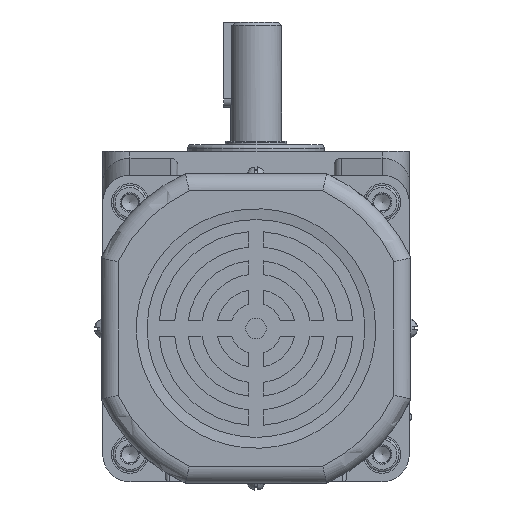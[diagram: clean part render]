
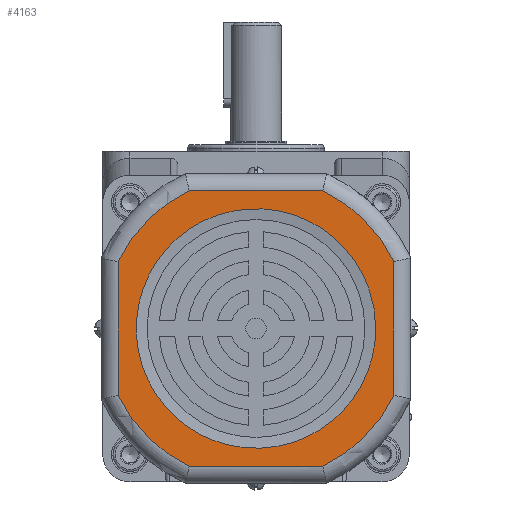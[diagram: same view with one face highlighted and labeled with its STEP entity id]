
A CAD part, front view. The second image highlights one B-rep face of the part: STEP entity #4163.
In plain terms, the highlighted planar face has unit normal (0, -1, 0).
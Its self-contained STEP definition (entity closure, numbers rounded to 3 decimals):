
#1122=LINE('',#19176,#1868);
#1124=LINE('',#19179,#1870);
#1126=LINE('',#19182,#1872);
#1129=LINE('',#19186,#1875);
#1868=VECTOR('',#15299,1.);
#1870=VECTOR('',#15303,1.);
#1872=VECTOR('',#15307,1.);
#1875=VECTOR('',#15312,1.);
#2279=B_SPLINE_CURVE_WITH_KNOTS('',3,(#19188,#19189,#19190,#19191,#19192,
#19193,#19194,#19195,#19196,#19197,#19198,#19199,#19200,#19201,#19202,#19203,
#19204,#19205,#19206,#19207,#19208,#19209,#19210,#19211,#19212,#19213,#19214,
#19215,#19216,#19217,#19218,#19219,#19220,#19221),.UNSPECIFIED.,.T.,.F.,
(2,2,2,2,2,2,2,2,2,2,2,2,2,2,2,2,2,2,2),(-0.062,0.,0.063,
0.125,0.188,0.25,0.313,0.375,0.438,0.5,0.563,0.625,0.688,0.75,0.813,
0.875,0.938,1.,1.063),.UNSPECIFIED.);
#4163=ADVANCED_FACE('',(#4945,#4946),#4610,.T.);
#4610=PLANE('',#12834);
#4945=FACE_BOUND('',#5578,.T.);
#4946=FACE_BOUND('',#5579,.T.);
#5578=EDGE_LOOP('',(#7735,#7736,#7737,#7738,#7739,#7740,#7741,#7742));
#5579=EDGE_LOOP('',(#7743));
#7735=ORIENTED_EDGE('',*,*,#10726,.T.);
#7736=ORIENTED_EDGE('',*,*,#10718,.T.);
#7737=ORIENTED_EDGE('',*,*,#10723,.T.);
#7738=ORIENTED_EDGE('',*,*,#10714,.T.);
#7739=ORIENTED_EDGE('',*,*,#10721,.T.);
#7740=ORIENTED_EDGE('',*,*,#10710,.T.);
#7741=ORIENTED_EDGE('',*,*,#10719,.T.);
#7742=ORIENTED_EDGE('',*,*,#10706,.T.);
#7743=ORIENTED_EDGE('',*,*,#10727,.F.);
#9428=VERTEX_POINT('',#19065);
#9430=VERTEX_POINT('',#19080);
#9432=VERTEX_POINT('',#19096);
#9434=VERTEX_POINT('',#19111);
#9436=VERTEX_POINT('',#19127);
#9438=VERTEX_POINT('',#19142);
#9440=VERTEX_POINT('',#19158);
#9442=VERTEX_POINT('',#19173);
#9443=VERTEX_POINT('',#19222);
#10706=EDGE_CURVE('',#9428,#9430,#11666,.T.);
#10710=EDGE_CURVE('',#9432,#9434,#11668,.T.);
#10714=EDGE_CURVE('',#9436,#9438,#11670,.T.);
#10718=EDGE_CURVE('',#9440,#9442,#11672,.T.);
#10719=EDGE_CURVE('',#9434,#9428,#1122,.T.);
#10721=EDGE_CURVE('',#9438,#9432,#1124,.T.);
#10723=EDGE_CURVE('',#9442,#9436,#1126,.T.);
#10726=EDGE_CURVE('',#9430,#9440,#1129,.T.);
#10727=EDGE_CURVE('',#9443,#9443,#2279,.T.);
#11666=CIRCLE('',#12819,45.);
#11668=CIRCLE('',#12822,45.);
#11670=CIRCLE('',#12825,45.);
#11672=CIRCLE('',#12828,45.);
#12819=AXIS2_PLACEMENT_3D('',#19081,#15277,#15278);
#12822=AXIS2_PLACEMENT_3D('',#19112,#15283,#15284);
#12825=AXIS2_PLACEMENT_3D('',#19143,#15289,#15290);
#12828=AXIS2_PLACEMENT_3D('',#19174,#15295,#15296);
#12834=AXIS2_PLACEMENT_3D('',#19223,#15315,#15316);
#15277=DIRECTION('',(0.,-1.,0.));
#15278=DIRECTION('',(1.,0.,0.));
#15283=DIRECTION('',(0.,-1.,0.));
#15284=DIRECTION('',(1.,0.,0.));
#15289=DIRECTION('',(0.,-1.,0.));
#15290=DIRECTION('',(1.,0.,0.));
#15295=DIRECTION('',(0.,-1.,0.));
#15296=DIRECTION('',(1.,0.,0.));
#15299=DIRECTION('',(-1.,0.,0.));
#15303=DIRECTION('',(0.,0.,1.));
#15307=DIRECTION('',(1.,0.,0.));
#15312=DIRECTION('',(0.,0.,-1.));
#15315=DIRECTION('',(0.,-1.,0.));
#15316=DIRECTION('',(1.,0.,0.));
#19065=CARTESIAN_POINT('',(-19.615,-234.,-11.5));
#19080=CARTESIAN_POINT('',(-40.5,-234.,-32.385));
#19081=CARTESIAN_POINT('',(0.,-234.,-52.));
#19096=CARTESIAN_POINT('',(40.5,-234.,-32.385));
#19111=CARTESIAN_POINT('',(19.615,-234.,-11.5));
#19112=CARTESIAN_POINT('',(0.,-234.,-52.));
#19127=CARTESIAN_POINT('',(19.615,-234.,-92.5));
#19142=CARTESIAN_POINT('',(40.5,-234.,-71.615));
#19143=CARTESIAN_POINT('',(0.,-234.,-52.));
#19158=CARTESIAN_POINT('',(-40.5,-234.,-71.615));
#19173=CARTESIAN_POINT('',(-19.615,-234.,-92.5));
#19174=CARTESIAN_POINT('',(0.,-234.,-52.));
#19176=CARTESIAN_POINT('',(0.,-234.,-11.5));
#19179=CARTESIAN_POINT('',(40.5,-234.,-16.843));
#19182=CARTESIAN_POINT('',(0.,-234.,-92.5));
#19186=CARTESIAN_POINT('',(-40.5,-234.,-16.843));
#19188=CARTESIAN_POINT('',(35.157,-234.,-56.602));
#19189=CARTESIAN_POINT('',(35.157,-234.,-47.398));
#19190=CARTESIAN_POINT('',(34.242,-234.,-42.798));
#19191=CARTESIAN_POINT('',(30.72,-234.,-34.294));
#19192=CARTESIAN_POINT('',(28.114,-234.,-30.394));
#19193=CARTESIAN_POINT('',(21.606,-234.,-23.886));
#19194=CARTESIAN_POINT('',(17.706,-234.,-21.28));
#19195=CARTESIAN_POINT('',(9.202,-234.,-17.758));
#19196=CARTESIAN_POINT('',(4.602,-234.,-16.843));
#19197=CARTESIAN_POINT('',(-4.602,-234.,-16.843));
#19198=CARTESIAN_POINT('',(-9.202,-234.,-17.758));
#19199=CARTESIAN_POINT('',(-17.706,-234.,-21.28));
#19200=CARTESIAN_POINT('',(-21.606,-234.,-23.886));
#19201=CARTESIAN_POINT('',(-28.114,-234.,-30.394));
#19202=CARTESIAN_POINT('',(-30.72,-234.,-34.294));
#19203=CARTESIAN_POINT('',(-34.242,-234.,-42.798));
#19204=CARTESIAN_POINT('',(-35.157,-234.,-47.398));
#19205=CARTESIAN_POINT('',(-35.157,-234.,-56.602));
#19206=CARTESIAN_POINT('',(-34.242,-234.,-61.202));
#19207=CARTESIAN_POINT('',(-30.72,-234.,-69.706));
#19208=CARTESIAN_POINT('',(-28.114,-234.,-73.606));
#19209=CARTESIAN_POINT('',(-21.606,-234.,-80.114));
#19210=CARTESIAN_POINT('',(-17.706,-234.,-82.72));
#19211=CARTESIAN_POINT('',(-9.202,-234.,-86.242));
#19212=CARTESIAN_POINT('',(-4.602,-234.,-87.157));
#19213=CARTESIAN_POINT('',(4.602,-234.,-87.157));
#19214=CARTESIAN_POINT('',(9.202,-234.,-86.242));
#19215=CARTESIAN_POINT('',(17.706,-234.,-82.72));
#19216=CARTESIAN_POINT('',(21.606,-234.,-80.114));
#19217=CARTESIAN_POINT('',(28.114,-234.,-73.606));
#19218=CARTESIAN_POINT('',(30.72,-234.,-69.706));
#19219=CARTESIAN_POINT('',(34.242,-234.,-61.202));
#19220=CARTESIAN_POINT('',(35.157,-234.,-56.602));
#19221=CARTESIAN_POINT('',(35.157,-234.,-47.398));
#19222=CARTESIAN_POINT('',(35.157,-234.,-52.));
#19223=CARTESIAN_POINT('',(0.,-234.,-16.843));
